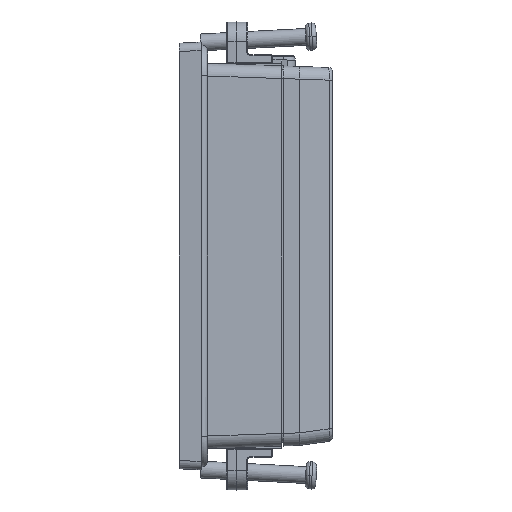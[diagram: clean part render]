
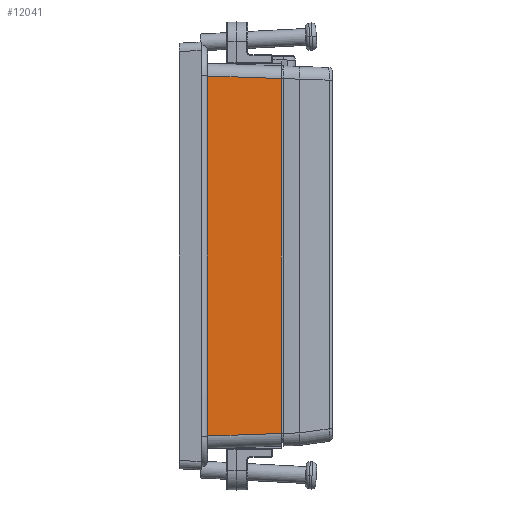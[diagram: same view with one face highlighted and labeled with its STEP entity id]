
A CAD part, left-side view. The second image highlights one B-rep face of the part: STEP entity #12041.
In plain terms, the highlighted planar face has unit normal (-0.999, -0.035, 0).
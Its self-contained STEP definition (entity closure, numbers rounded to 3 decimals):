
#1358=PLANE('',#111665);
#12041=ADVANCED_FACE('',(#16007),#1358,.T.);
#16007=FACE_OUTER_BOUND('',#19973,.T.);
#19973=EDGE_LOOP('',(#24224,#24225,#24226,#24227,#24228,#24229,#24230,#24231,
#24232,#24233,#24234,#24235,#24236,#24237,#24238,#24239,#24240,#24241,#24242,
#24243));
#24224=ORIENTED_EDGE('',*,*,#45286,.T.);
#24225=ORIENTED_EDGE('',*,*,#45287,.T.);
#24226=ORIENTED_EDGE('',*,*,#45288,.T.);
#24227=ORIENTED_EDGE('',*,*,#45289,.T.);
#24228=ORIENTED_EDGE('',*,*,#45290,.T.);
#24229=ORIENTED_EDGE('',*,*,#45291,.T.);
#24230=ORIENTED_EDGE('',*,*,#45292,.T.);
#24231=ORIENTED_EDGE('',*,*,#45293,.T.);
#24232=ORIENTED_EDGE('',*,*,#45294,.T.);
#24233=ORIENTED_EDGE('',*,*,#45295,.T.);
#24234=ORIENTED_EDGE('',*,*,#45296,.T.);
#24235=ORIENTED_EDGE('',*,*,#45297,.T.);
#24236=ORIENTED_EDGE('',*,*,#45298,.T.);
#24237=ORIENTED_EDGE('',*,*,#45299,.T.);
#24238=ORIENTED_EDGE('',*,*,#45300,.T.);
#24239=ORIENTED_EDGE('',*,*,#45301,.T.);
#24240=ORIENTED_EDGE('',*,*,#45302,.T.);
#24241=ORIENTED_EDGE('',*,*,#45303,.T.);
#24242=ORIENTED_EDGE('',*,*,#45304,.T.);
#24243=ORIENTED_EDGE('',*,*,#45305,.T.);
#45286=EDGE_CURVE('',#71510,#71511,#92623,.T.);
#45287=EDGE_CURVE('',#71511,#71512,#92624,.T.);
#45288=EDGE_CURVE('',#71512,#71513,#92625,.T.);
#45289=EDGE_CURVE('',#71513,#71514,#92626,.T.);
#45290=EDGE_CURVE('',#71514,#71515,#92627,.T.);
#45291=EDGE_CURVE('',#71515,#71516,#92628,.T.);
#45292=EDGE_CURVE('',#71516,#71517,#92629,.T.);
#45293=EDGE_CURVE('',#71517,#71518,#92630,.T.);
#45294=EDGE_CURVE('',#71518,#71519,#92631,.T.);
#45295=EDGE_CURVE('',#71519,#71520,#92632,.T.);
#45296=EDGE_CURVE('',#71520,#71521,#92633,.T.);
#45297=EDGE_CURVE('',#71521,#71522,#92634,.T.);
#45298=EDGE_CURVE('',#71522,#71523,#92635,.T.);
#45299=EDGE_CURVE('',#71523,#71524,#92636,.T.);
#45300=EDGE_CURVE('',#71524,#71525,#92637,.T.);
#45301=EDGE_CURVE('',#71525,#71526,#92638,.T.);
#45302=EDGE_CURVE('',#71526,#71527,#92639,.T.);
#45303=EDGE_CURVE('',#71527,#71528,#92640,.T.);
#45304=EDGE_CURVE('',#71528,#71529,#92641,.T.);
#45305=EDGE_CURVE('',#71529,#71510,#92642,.T.);
#71510=VERTEX_POINT('',#119291);
#71511=VERTEX_POINT('',#119292);
#71512=VERTEX_POINT('',#119293);
#71513=VERTEX_POINT('',#119294);
#71514=VERTEX_POINT('',#119295);
#71515=VERTEX_POINT('',#119296);
#71516=VERTEX_POINT('',#119297);
#71517=VERTEX_POINT('',#119298);
#71518=VERTEX_POINT('',#119299);
#71519=VERTEX_POINT('',#119300);
#71520=VERTEX_POINT('',#119301);
#71521=VERTEX_POINT('',#119302);
#71522=VERTEX_POINT('',#119303);
#71523=VERTEX_POINT('',#119304);
#71524=VERTEX_POINT('',#119305);
#71525=VERTEX_POINT('',#119306);
#71526=VERTEX_POINT('',#119307);
#71527=VERTEX_POINT('',#119308);
#71528=VERTEX_POINT('',#119309);
#71529=VERTEX_POINT('',#119310);
#92623=B_SPLINE_CURVE_WITH_KNOTS('',1,(#119311,#119312),.UNSPECIFIED.,.F.,
 .F.,(2,2),(0.,20.542),.UNSPECIFIED.);
#92624=B_SPLINE_CURVE_WITH_KNOTS('',1,(#119313,#119314),.UNSPECIFIED.,.F.,
 .F.,(2,2),(0.,84.184),.UNSPECIFIED.);
#92625=B_SPLINE_CURVE_WITH_KNOTS('',1,(#119315,#119316),.UNSPECIFIED.,.F.,
 .F.,(2,2),(0.,20.542),.UNSPECIFIED.);
#92626=B_SPLINE_CURVE_WITH_KNOTS('',1,(#119317,#119318),.UNSPECIFIED.,.F.,
 .F.,(2,2),(0.,9.834),.UNSPECIFIED.);
#92627=B_SPLINE_CURVE_WITH_KNOTS('',1,(#119319,#119320),.UNSPECIFIED.,.F.,
 .F.,(2,2),(0.,1.52),.UNSPECIFIED.);
#92628=B_SPLINE_CURVE_WITH_KNOTS('',1,(#119321,#119322),.UNSPECIFIED.,.F.,
 .F.,(2,2),(0.,1.29),.UNSPECIFIED.);
#92629=B_SPLINE_CURVE_WITH_KNOTS('',1,(#119323,#119324),.UNSPECIFIED.,.F.,
 .F.,(2,2),(0.,1.52),.UNSPECIFIED.);
#92630=B_SPLINE_CURVE_WITH_KNOTS('',1,(#119325,#119326),.UNSPECIFIED.,.F.,
 .F.,(2,2),(0.,20.051),.UNSPECIFIED.);
#92631=B_SPLINE_CURVE_WITH_KNOTS('',1,(#119327,#119328),.UNSPECIFIED.,.F.,
 .F.,(2,2),(0.,1.52),.UNSPECIFIED.);
#92632=B_SPLINE_CURVE_WITH_KNOTS('',1,(#119329,#119330),.UNSPECIFIED.,.F.,
 .F.,(2,2),(0.,1.29),.UNSPECIFIED.);
#92633=B_SPLINE_CURVE_WITH_KNOTS('',1,(#119331,#119332),.UNSPECIFIED.,.F.,
 .F.,(2,2),(0.,1.52),.UNSPECIFIED.);
#92634=B_SPLINE_CURVE_WITH_KNOTS('',1,(#119333,#119334),.UNSPECIFIED.,.F.,
 .F.,(2,2),(0.,20.051),.UNSPECIFIED.);
#92635=B_SPLINE_CURVE_WITH_KNOTS('',1,(#119335,#119336),.UNSPECIFIED.,.F.,
 .F.,(2,2),(0.,1.52),.UNSPECIFIED.);
#92636=B_SPLINE_CURVE_WITH_KNOTS('',1,(#119337,#119338),.UNSPECIFIED.,.F.,
 .F.,(2,2),(0.,1.29),.UNSPECIFIED.);
#92637=B_SPLINE_CURVE_WITH_KNOTS('',1,(#119339,#119340),.UNSPECIFIED.,.F.,
 .F.,(2,2),(0.,1.52),.UNSPECIFIED.);
#92638=B_SPLINE_CURVE_WITH_KNOTS('',1,(#119341,#119342),.UNSPECIFIED.,.F.,
 .F.,(2,2),(0.,20.051),.UNSPECIFIED.);
#92639=B_SPLINE_CURVE_WITH_KNOTS('',1,(#119343,#119344),.UNSPECIFIED.,.F.,
 .F.,(2,2),(0.,1.52),.UNSPECIFIED.);
#92640=B_SPLINE_CURVE_WITH_KNOTS('',1,(#119345,#119346),.UNSPECIFIED.,.F.,
 .F.,(2,2),(0.,1.29),.UNSPECIFIED.);
#92641=B_SPLINE_CURVE_WITH_KNOTS('',1,(#119347,#119348),.UNSPECIFIED.,.F.,
 .F.,(2,2),(0.,1.52),.UNSPECIFIED.);
#92642=B_SPLINE_CURVE_WITH_KNOTS('',1,(#119349,#119350),.UNSPECIFIED.,.F.,
 .F.,(2,2),(0.,9.834),.UNSPECIFIED.);
#111665=AXIS2_PLACEMENT_3D('',#119290,#115086,$);
#115086=DIRECTION('',(-0.999,-0.035,0.));
#119290=CARTESIAN_POINT('',(-58.879,21.582,-51.382));
#119291=CARTESIAN_POINT('',(-58.807,19.517,-42.808));
#119292=CARTESIAN_POINT('',(-58.09,-1.,-42.092));
#119293=CARTESIAN_POINT('',(-58.09,-1.,42.092));
#119294=CARTESIAN_POINT('',(-58.807,19.517,42.808));
#119295=CARTESIAN_POINT('',(-58.807,19.517,32.975));
#119296=CARTESIAN_POINT('',(-58.754,18.,32.895));
#119297=CARTESIAN_POINT('',(-58.754,18.,31.605));
#119298=CARTESIAN_POINT('',(-58.807,19.517,31.525));
#119299=CARTESIAN_POINT('',(-58.807,19.517,11.475));
#119300=CARTESIAN_POINT('',(-58.754,18.,11.395));
#119301=CARTESIAN_POINT('',(-58.754,18.,10.105));
#119302=CARTESIAN_POINT('',(-58.807,19.517,10.025));
#119303=CARTESIAN_POINT('',(-58.807,19.517,-10.025));
#119304=CARTESIAN_POINT('',(-58.754,18.,-10.105));
#119305=CARTESIAN_POINT('',(-58.754,18.,-11.395));
#119306=CARTESIAN_POINT('',(-58.807,19.517,-11.475));
#119307=CARTESIAN_POINT('',(-58.807,19.517,-31.525));
#119308=CARTESIAN_POINT('',(-58.754,18.,-31.605));
#119309=CARTESIAN_POINT('',(-58.754,18.,-32.895));
#119310=CARTESIAN_POINT('',(-58.807,19.517,-32.975));
#119311=CARTESIAN_POINT('',(-58.807,19.517,-42.808));
#119312=CARTESIAN_POINT('',(-58.09,-1.,-42.092));
#119313=CARTESIAN_POINT('',(-58.09,-1.,-42.092));
#119314=CARTESIAN_POINT('',(-58.09,-1.,42.092));
#119315=CARTESIAN_POINT('',(-58.09,-1.,42.092));
#119316=CARTESIAN_POINT('',(-58.807,19.517,42.808));
#119317=CARTESIAN_POINT('',(-58.807,19.517,42.808));
#119318=CARTESIAN_POINT('',(-58.807,19.517,32.975));
#119319=CARTESIAN_POINT('',(-58.807,19.517,32.975));
#119320=CARTESIAN_POINT('',(-58.754,18.,32.895));
#119321=CARTESIAN_POINT('',(-58.754,18.,32.895));
#119322=CARTESIAN_POINT('',(-58.754,18.,31.605));
#119323=CARTESIAN_POINT('',(-58.754,18.,31.605));
#119324=CARTESIAN_POINT('',(-58.807,19.517,31.525));
#119325=CARTESIAN_POINT('',(-58.807,19.517,31.525));
#119326=CARTESIAN_POINT('',(-58.807,19.517,11.475));
#119327=CARTESIAN_POINT('',(-58.807,19.517,11.475));
#119328=CARTESIAN_POINT('',(-58.754,18.,11.395));
#119329=CARTESIAN_POINT('',(-58.754,18.,11.395));
#119330=CARTESIAN_POINT('',(-58.754,18.,10.105));
#119331=CARTESIAN_POINT('',(-58.754,18.,10.105));
#119332=CARTESIAN_POINT('',(-58.807,19.517,10.025));
#119333=CARTESIAN_POINT('',(-58.807,19.517,10.025));
#119334=CARTESIAN_POINT('',(-58.807,19.517,-10.025));
#119335=CARTESIAN_POINT('',(-58.807,19.517,-10.025));
#119336=CARTESIAN_POINT('',(-58.754,18.,-10.105));
#119337=CARTESIAN_POINT('',(-58.754,18.,-10.105));
#119338=CARTESIAN_POINT('',(-58.754,18.,-11.395));
#119339=CARTESIAN_POINT('',(-58.754,18.,-11.395));
#119340=CARTESIAN_POINT('',(-58.807,19.517,-11.475));
#119341=CARTESIAN_POINT('',(-58.807,19.517,-11.475));
#119342=CARTESIAN_POINT('',(-58.807,19.517,-31.525));
#119343=CARTESIAN_POINT('',(-58.807,19.517,-31.525));
#119344=CARTESIAN_POINT('',(-58.754,18.,-31.605));
#119345=CARTESIAN_POINT('',(-58.754,18.,-31.605));
#119346=CARTESIAN_POINT('',(-58.754,18.,-32.895));
#119347=CARTESIAN_POINT('',(-58.754,18.,-32.895));
#119348=CARTESIAN_POINT('',(-58.807,19.517,-32.975));
#119349=CARTESIAN_POINT('',(-58.807,19.517,-32.975));
#119350=CARTESIAN_POINT('',(-58.807,19.517,-42.808));
